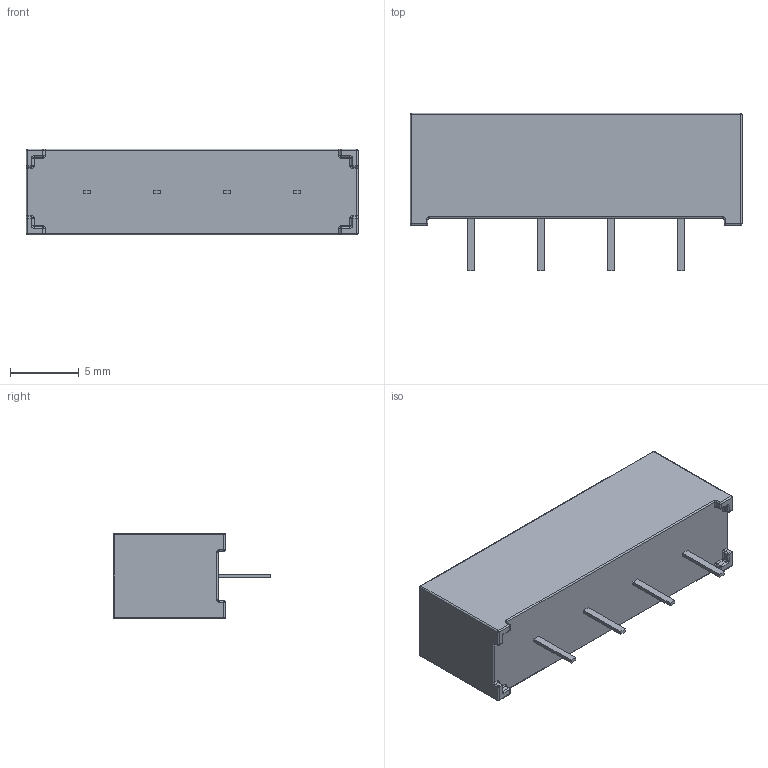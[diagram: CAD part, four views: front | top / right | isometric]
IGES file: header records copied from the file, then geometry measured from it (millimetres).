
Start section: SolidWorks IGES file using analytic representation for surfaces
Global section: file name: T:\ISO2\QMS\DESIGN & DEVELOPMENT\UK PRODUCT\Projects\Open\DD161 144 Series\Series_144 (Website Models)\144-1-A-X-2X.IGS; native system: SolidWorks 2023; preprocessor: SolidWorks 2023; author: Ahmet.Turan; date: 240315.151803; units: millimetre
Bounding box: 24.1 x 11.43 x 6.22 mm (x, y, z)
Surface area: 787.9 mm2 (no closed solid volume)
Topology: 0 solids, 0 shells, 793 faces, 6684 edges, 6656 vertices
Faces by surface type: bspline 693, revolution 100
